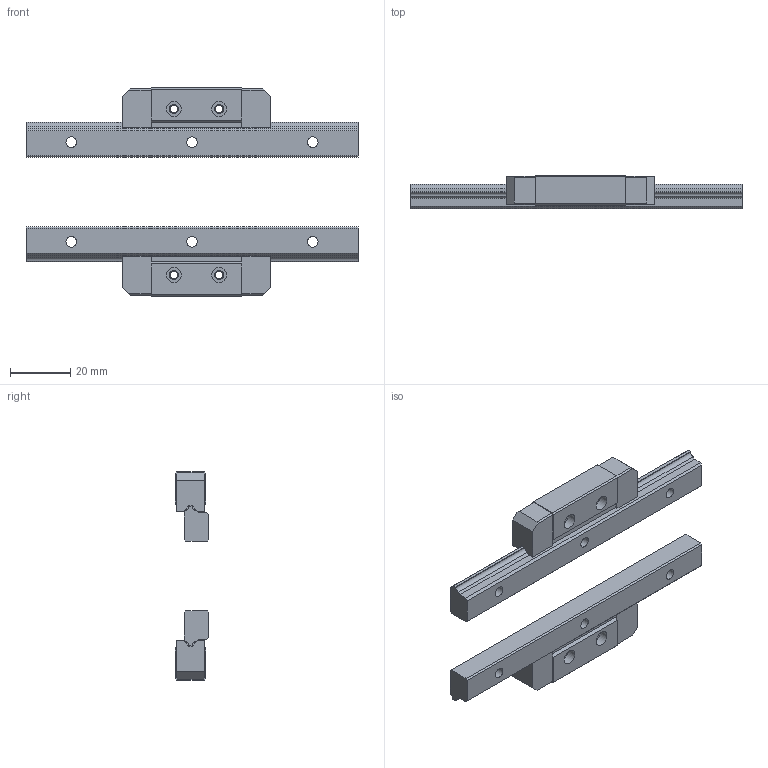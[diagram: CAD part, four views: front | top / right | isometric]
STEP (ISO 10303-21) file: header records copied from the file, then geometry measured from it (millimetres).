
FILE_DESCRIPTION(/* description */ ('STEP AP203'),/* implementation_level */ '2;1');
FILE_NAME(/* name */ 'HR1123-110L_G15_33_30-5_0_0_0',/* time_stamp */ '2024-05-21T10:47:13+02:00',/* author */ ('License CC BY-ND 4.0'),/* organization */ ('CADENAS'),/* preprocessor_version */ 'ST-DEVELOPER v19.3',/* originating_system */ 'PARTsolutions',/* authorisation */ ' ');
FILE_SCHEMA (('CONFIG_CONTROL_DESIGN'));
Length unit declared in the file: millimetre
Products named in the file (5): HR1123-110L_G15_33_30-5_0_0_0; HR1123111015-Rail; HR1123-Slider; HR1123111015-Rail2; HR1123-Slider2
Assembly tree (4 placements, depth 2):
  HR1123-110L_G15_33_30-5_0_0_0
    HR1123111015-Rail
    HR1123-Slider
    HR1123111015-Rail2
    HR1123-Slider2
Bounding box: 110 x 11 x 69 mm (x, y, z)
Volume: 28082.2 mm3; surface area: 14356.1 mm2
Topology: 4 solids, 4 shells, 176 faces, 449 edges, 291 vertices
Faces by surface type: plane 136, cylinder 30, cone 10
Full cylindrical faces by diameter (mm): 2 x2, 2.55 x4, 3.5 x6, 5 x4, 6 x6
Entity records: 5229 total; most frequent: CARTESIAN_POINT 885, DIRECTION 844, ORIENTED_EDGE 828, EDGE_CURVE 414, LINE 346, VECTOR 346, VERTEX_POINT 290, AXIS2_PLACEMENT_3D 249
